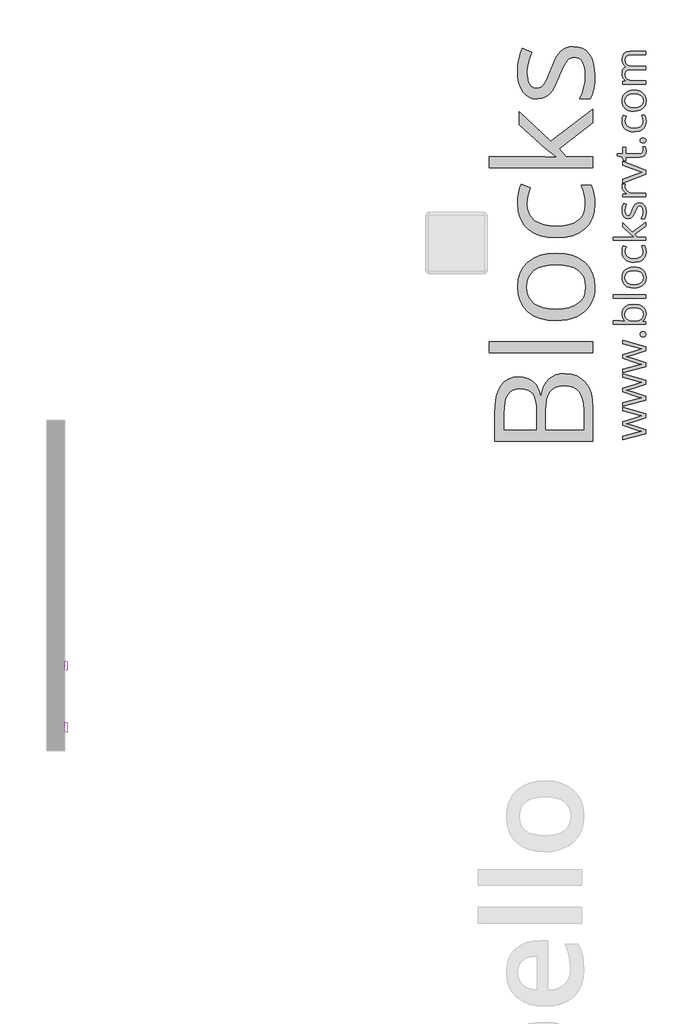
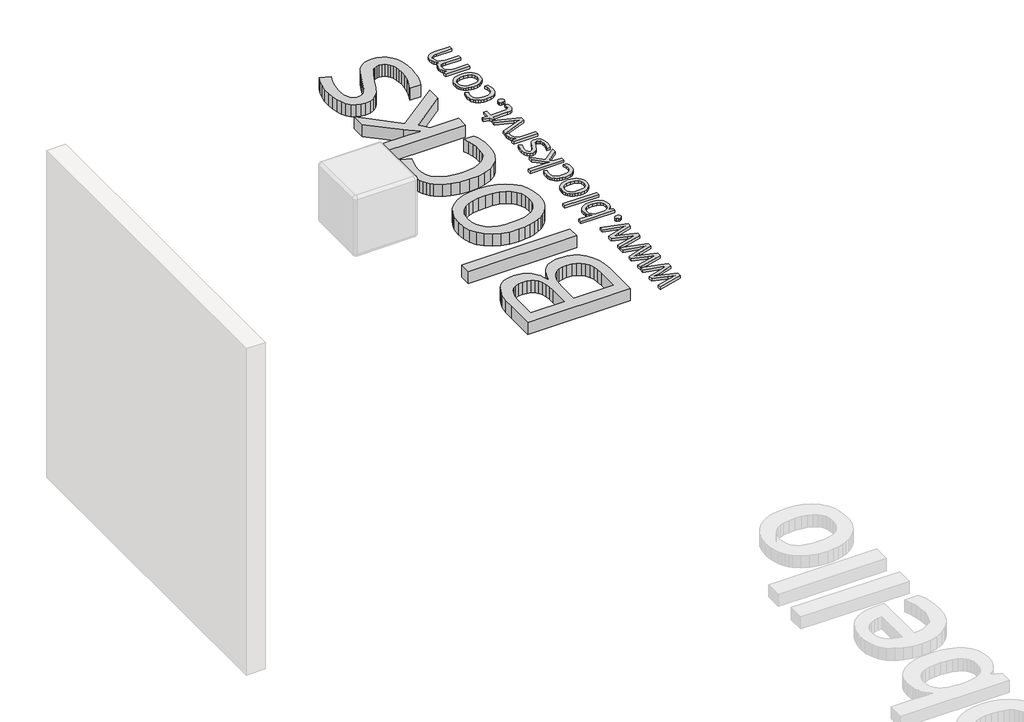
# One storey, part 3 of 3: 4 proxies.
"""IFC4 building model written with IfcOpenShell, lengths in millimetres."""

from ifc_helpers import new_model, si_unit, frame, origin, origin_with_axes, place, context, project, spatial, polyline, outline, extrude, element, save

model = new_model("IFC4")

# Units and contexts
model_context = context("Model", 3, world=origin())
ifc_project = project(units=[si_unit("LENGTHUNIT", "METRE", prefix="MILLI")], contexts=[model_context])

# Site, building, storey
site = spatial("IfcSite", under=ifc_project)
building = spatial("IfcBuilding", under=site)
storey = spatial("IfcBuildingStorey", under=building, Name="PORTOBELLO - SHOWROOM", Elevation=0.0)

# Proxies
placement = place(None, origin())
element("IfcBuildingElementProxy", 1, Name="10mm Arial", ObjectType="10mm Arial", at=placement, inside=storey, context=model_context, shape_type="SweptSolid", body=[
    extrude(outline(polyline([(-3349.3070535, 2451.5354723), (-3349.3070535, 2551.9917824), (-3314.6525695, 2551.9917824), (-3296.7244536, 2550.5447799), (-3281.9601229, 2543.3588183), (-3270.0652717, 2526.1909918), (-3266.1166716, 2502.3031876), (-3268.7899475, 2482.0328897), (-3275.6570781, 2467.403449), (-3284.8296025, 2458.2922382), (-3296.8348182, 2453.2522549), (-3312.9848378, 2451.5354723), (-3349.3070535, 2451.5354723)]), holes=[polyline([(-3336.7500147, 2464.092511), (-3314.5299422, 2464.092511), (-3298.3676599, 2465.9073955), (-3289.0479827, 2471.033218), (-3281.4082999, 2483.5044177), (-3278.6737104, 2502.4993913), (-3280.013414, 2516.1846016), (-3284.0325248, 2526.2890937), (-3297.0678102, 2537.4236554), (-3314.8732987, 2539.4347437), (-3336.7500147, 2539.4347437), (-3336.7500147, 2464.092511)])]), frame((-5514.3406146, 0.0, 0.0), z_axis=(1.0, 0.0, 0.0), x_axis=(0.0, 1.0, 0.0)), (0.0, 0.0, 1.0), 20.0),
    extrude(outline(polyline([(-3203.3314778, 2451.5354723), (-3203.3314778, 2464.2151384), (-3213.1661898, 2453.5281664), (-3225.9930087, 2449.9658424), (-3237.8020208, 2452.46744), (-3245.9444756, 2458.7459594), (-3249.6846092, 2467.9920602), (-3250.4203732, 2479.6661822), (-3250.4203732, 2525.308075), (-3237.8633344, 2525.308075), (-3237.8633344, 2485.5768196), (-3237.103045, 2472.7745261), (-3232.136638, 2465.2574707), (-3222.7801726, 2462.5228812), (-3212.2955358, 2465.3187844), (-3205.3670915, 2472.9339417), (-3203.3314778, 2486.9257202), (-3203.3314778, 2525.308075), (-3190.774439, 2525.308075), (-3190.774439, 2451.5354723), (-3203.3314778, 2451.5354723)])), frame((-5514.3406146, 0.0, 0.0), z_axis=(1.0, 0.0, 0.0), x_axis=(0.0, 1.0, 0.0)), (0.0, 0.0, 1.0), 20.0),
    extrude(outline(polyline([(-3178.2174003, 2473.5102901), (-3165.6603615, 2475.07992), (-3159.847826, 2465.7602428), (-3146.5304977, 2462.5228812), (-3133.7282043, 2465.4904626), (-3129.558875, 2472.4556951), (-3133.7527298, 2478.0965523), (-3146.6776505, 2481.6772704), (-3165.5867851, 2487.8208997), (-3173.8396045, 2494.9945986), (-3176.6477704, 2505.1236162), (-3174.3914275, 2514.4800816), (-3168.2355355, 2521.6292551), (-3160.2524962, 2525.3448632), (-3149.4490282, 2526.8777049), (-3134.1696627, 2524.4128955), (-3124.457578, 2517.7419687), (-3120.141096, 2506.4725169), (-3132.6981347, 2504.902887), (-3137.419287, 2511.8313313), (-3148.4680096, 2514.3206661), (-3160.4854881, 2511.9416959), (-3164.0907317, 2506.3989405), (-3162.5946782, 2502.744646), (-3157.9103141, 2499.9732683), (-3147.0945835, 2497.2999925), (-3128.6636955, 2491.3893551), (-3120.1043078, 2484.6939028), (-3117.0018363, 2473.7800702), (-3120.643868, 2461.7625917), (-3131.1530303, 2453.0437885), (-3146.702176, 2449.9658424), (-3159.363448, 2451.4496331), (-3168.6034175, 2455.9010053), (-3174.7715722, 2463.2709079), (-3178.2174003, 2473.5102901)])), frame((-5514.3406146, 0.0, 0.0), z_axis=(1.0, 0.0, 0.0), x_axis=(0.0, 1.0, 0.0)), (0.0, 0.0, 1.0), 20.0),
    extrude(outline(polyline([(-3076.1914603, 2462.0078464), (-3074.6218304, 2451.1675903), (-3084.015084, 2449.9658424), (-3094.5365091, 2452.0505071), (-3099.7849589, 2457.5196861), (-3101.3055378, 2471.768982), (-3101.3055378, 2512.7510363), (-3110.7233169, 2512.7510363), (-3110.7233169, 2525.308075), (-3101.3055378, 2525.308075), (-3101.3055378, 2543.2361909), (-3088.748499, 2550.6183563), (-3088.748499, 2525.308075), (-3076.1914603, 2525.308075), (-3076.1914603, 2512.7510363), (-3088.748499, 2512.7510363), (-3088.748499, 2472.136864), (-3088.0863114, 2465.6621409), (-3085.9403331, 2463.3690098), (-3081.6606393, 2462.5228812), (-3076.1914603, 2462.0078464)])), frame((-5514.3406146, 0.0, 0.0), z_axis=(1.0, 0.0, 0.0), x_axis=(0.0, 1.0, 0.0)), (0.0, 0.0, 1.0), 20.0),
])
element("IfcBuildingElementProxy", 2, Name="10mm Arial", ObjectType="10mm Arial", at=placement, inside=storey, context=model_context, shape_type="SweptSolid", body=[
    extrude(outline(polyline([(-3009.3070535, 2451.5354723), (-3009.3070535, 2551.9917824), (-2972.0773956, 2551.9917824), (-2957.0678102, 2551.0352892), (-2944.8663907, 2546.3386624), (-2936.9569278, 2536.6265778), (-2933.9648209, 2522.9291048), (-2935.9851062, 2511.0894359), (-2942.045962, 2501.2240671), (-2953.3797932, 2494.565403), (-2971.2190043, 2492.3458483), (-2996.7500147, 2492.3458483), (-2996.7500147, 2451.5354723), (-3009.3070535, 2451.5354723)]), holes=[polyline([(-2996.7500147, 2504.902887), (-2970.4832403, 2504.902887), (-2951.9910386, 2509.5136747), (-2947.8891544, 2515.0625615), (-2946.5218596, 2522.4876464), (-2949.7469585, 2532.8864441), (-2958.2205071, 2538.5763523), (-2970.7775459, 2539.4347437), (-2996.7500147, 2539.4347437), (-2996.7500147, 2504.902887)])]), frame((-5514.3406146, 0.0, 0.0), z_axis=(1.0, 0.0, 0.0), x_axis=(0.0, 1.0, 0.0)), (0.0, 0.0, 1.0), 20.0),
    extrude(outline(polyline([(-2921.4077821, 2488.4217737), (-2918.6915867, 2506.2088681), (-2910.5430005, 2518.7107246), (-2900.4752966, 2524.8359598), (-2888.4210299, 2526.8777049), (-2875.2293947, 2524.3914357), (-2864.6926412, 2516.9326283), (-2857.7856567, 2505.0898937), (-2855.4833286, 2489.4518432), (-2859.554556, 2467.1091434), (-2871.412619, 2454.4662655), (-2888.4210299, 2449.9658424), (-2901.7720806, 2452.4429145), (-2912.2965714, 2459.8741308), (-2919.1299794, 2471.9651857), (-2921.4077821, 2488.4217737)]), holes=[polyline([(-2908.8507433, 2488.4462991), (-2907.3976095, 2477.0818112), (-2903.0382078, 2468.9853416), (-2896.4776456, 2464.1384963), (-2888.4210299, 2462.5228812), (-2880.4012024, 2464.1476933), (-2873.8529029, 2469.0221298), (-2869.4935012, 2477.2258983), (-2868.0403673, 2488.8387066), (-2869.5026983, 2499.8721008), (-2873.8896911, 2507.8582057), (-2880.4471876, 2512.705051), (-2888.4210299, 2514.3206661), (-2896.4776456, 2512.7111824), (-2903.0382078, 2507.8827312), (-2907.3976095, 2499.8046557), (-2908.8507433, 2488.4462991)])]), frame((-5514.3406146, 0.0, 0.0), z_axis=(1.0, 0.0, 0.0), x_axis=(0.0, 1.0, 0.0)), (0.0, 0.0, 1.0), 20.0),
    extrude(outline(polyline([(-2841.35666, 2451.5354723), (-2841.35666, 2525.308075), (-2830.369251, 2525.308075), (-2830.369251, 2514.3942425), (-2822.5701527, 2524.4496837), (-2814.7220035, 2526.8777049), (-2802.1159138, 2523.0026812), (-2806.3097685, 2511.7454921), (-2815.1389364, 2514.3206661), (-2822.2390589, 2511.843594), (-2826.7640075, 2504.9764634), (-2828.7996212, 2490.3102346), (-2828.7996212, 2451.5354723), (-2841.35666, 2451.5354723)])), frame((-5514.3406146, 0.0, 0.0), z_axis=(1.0, 0.0, 0.0), x_axis=(0.0, 1.0, 0.0)), (0.0, 0.0, 1.0), 20.0),
    extrude(outline(polyline([(-2767.5840572, 2462.0078464), (-2766.0144273, 2451.1675903), (-2775.407681, 2449.9658424), (-2785.929106, 2452.0505071), (-2791.1775558, 2457.5196861), (-2792.6981347, 2471.768982), (-2792.6981347, 2512.7510363), (-2802.1159138, 2512.7510363), (-2802.1159138, 2523.0026812), (-2802.1159138, 2525.308075), (-2792.6981347, 2525.308075), (-2792.6981347, 2543.2361909), (-2780.141096, 2550.6183563), (-2780.141096, 2525.308075), (-2767.5840572, 2525.308075), (-2767.5840572, 2512.7510363), (-2780.141096, 2512.7510363), (-2780.141096, 2472.136864), (-2779.4789084, 2465.6621409), (-2777.3329301, 2463.3690098), (-2773.0532362, 2462.5228812), (-2767.5840572, 2462.0078464)])), frame((-5514.3406146, 0.0, 0.0), z_axis=(1.0, 0.0, 0.0), x_axis=(0.0, 1.0, 0.0)), (0.0, 0.0, 1.0), 20.0),
    extrude(outline(polyline([(-2758.1662781, 2488.4217737), (-2755.4500827, 2506.2088681), (-2747.3014965, 2518.7107246), (-2737.2337926, 2524.8359598), (-2725.1795259, 2526.8777049), (-2711.9878907, 2524.3914357), (-2701.4511372, 2516.9326283), (-2694.5441527, 2505.0898937), (-2692.2418246, 2489.4518432), (-2696.313052, 2467.1091434), (-2708.171115, 2454.4662655), (-2725.1795259, 2449.9658424), (-2738.5305766, 2452.4429145), (-2749.0550674, 2459.8741308), (-2755.8884754, 2471.9651857), (-2758.1662781, 2488.4217737)]), holes=[polyline([(-2745.6092393, 2488.4462991), (-2744.1561055, 2477.0818112), (-2739.7967038, 2468.9853416), (-2733.2361416, 2464.1384963), (-2725.1795259, 2462.5228812), (-2717.1596984, 2464.1476933), (-2710.6113989, 2469.0221298), (-2706.2519972, 2477.2258983), (-2704.7988633, 2488.8387066), (-2706.2611943, 2499.8721008), (-2710.6481871, 2507.8582057), (-2717.2056836, 2512.705051), (-2725.1795259, 2514.3206661), (-2733.2361416, 2512.7111824), (-2739.7967038, 2507.8827312), (-2744.1561055, 2499.8046557), (-2745.6092393, 2488.4462991)])]), frame((-5514.3406146, 0.0, 0.0), z_axis=(1.0, 0.0, 0.0), x_axis=(0.0, 1.0, 0.0)), (0.0, 0.0, 1.0), 20.0),
    extrude(outline(polyline([(-2665.5581172, 2451.5354723), (-2678.115156, 2451.5354723), (-2678.115156, 2551.9917824), (-2665.5581172, 2551.9917824), (-2665.5581172, 2514.737599), (-2656.7657375, 2523.8426784), (-2645.8396423, 2526.8777049), (-2633.258078, 2524.1431154), (-2623.4969424, 2516.4543817), (-2617.5004659, 2504.4982168), (-2615.3299621, 2489.5254196), (-2617.577108, 2472.7622634), (-2624.3185455, 2460.2910638), (-2634.2115055, 2452.5471478), (-2645.9132187, 2449.9658424), (-2657.0784372, 2453.2951745), (-2665.5581172, 2463.2831707), (-2665.5581172, 2451.5354723)]), holes=[polyline([(-2665.5581172, 2488.9368084), (-2662.1245519, 2471.3765745), (-2655.5455956, 2464.7363045), (-2646.9923392, 2462.5228812), (-2639.7450639, 2464.1538247), (-2633.5523836, 2469.0466552), (-2629.3033466, 2477.170716), (-2627.8870009, 2488.4953501), (-2629.2450986, 2499.985531), (-2633.3193917, 2508.0176213), (-2639.3189339, 2512.7449049), (-2646.4527789, 2514.3206661), (-2653.7000542, 2512.6897226), (-2659.8927345, 2507.7968921), (-2664.1417715, 2499.8199841), (-2665.5581172, 2488.9368084)])]), frame((-5514.3406146, 0.0, 0.0), z_axis=(1.0, 0.0, 0.0), x_axis=(0.0, 1.0, 0.0)), (0.0, 0.0, 1.0), 20.0),
    extrude(outline(polyline([(-2549.5526614, 2473.5102901), (-2537.2408773, 2471.9406603), (-2541.676921, 2462.6639026), (-2548.7555837, 2455.729327), (-2558.3174499, 2451.4067136), (-2570.203104, 2449.9658424), (-2584.936778, 2452.4521116), (-2596.2736748, 2459.910919), (-2603.502556, 2471.8578868), (-2605.912183, 2487.808637), (-2603.4780305, 2504.2958817), (-2596.1755729, 2516.62606), (-2584.9919603, 2524.3147937), (-2570.9143426, 2526.8777049), (-2557.2751176, 2524.320925), (-2546.3766135, 2516.6505854), (-2539.2305057, 2504.3449327), (-2536.8484698, 2487.8822134), (-2536.9220462, 2484.497699), (-2593.3551443, 2484.497699), (-2591.1815748, 2475.0983141), (-2586.1323944, 2468.1882639), (-2578.8452652, 2463.9392269), (-2569.9578494, 2462.5228812), (-2557.6460653, 2465.1471061), (-2549.5526614, 2473.5102901)]), holes=[polyline([(-2593.3551443, 2497.0547378), (-2549.4055086, 2497.0547378), (-2554.4332292, 2508.4345542), (-2561.7540809, 2512.8491381), (-2570.9633935, 2514.3206661), (-2586.4267, 2509.6240393), (-2591.2919394, 2504.1334005), (-2593.3551443, 2497.0547378)])]), frame((-5514.3406146, 0.0, 0.0), z_axis=(1.0, 0.0, 0.0), x_axis=(0.0, 1.0, 0.0)), (0.0, 0.0, 1.0), 20.0),
    extrude(outline(polyline([(-5494.3406146, -2511.7343923), (-5494.3406146, -2524.291431), (-5514.3406146, -2524.291431), (-5514.3406146, -2511.7343923), (-5494.3406146, -2511.7343923)])), frame((0.0, 0.0, 2451.5354723), z_axis=(0.0, 0.0, 1.0), x_axis=(1.0, 0.0, 0.0)), (0.0, 0.0, 1.0), 100.4563101),
    extrude(outline(polyline([(-5494.3406146, -2480.3417954), (-5494.3406146, -2492.8988341), (-5514.3406146, -2492.8988341), (-5514.3406146, -2480.3417954), (-5494.3406146, -2480.3417954)])), frame((0.0, 0.0, 2451.5354723), z_axis=(0.0, 0.0, 1.0), x_axis=(1.0, 0.0, 0.0)), (0.0, 0.0, 1.0), 100.4563101),
    extrude(outline(polyline([(-2464.6454969, 2488.4217737), (-2461.9293015, 2506.2088681), (-2453.7807153, 2518.7107246), (-2443.7130114, 2524.8359598), (-2431.6587447, 2526.8777049), (-2418.4671095, 2524.3914357), (-2407.930356, 2516.9326283), (-2401.0233715, 2505.0898937), (-2398.7210434, 2489.4518432), (-2402.7922708, 2467.1091434), (-2414.6503338, 2454.4662655), (-2431.6587447, 2449.9658424), (-2445.0097954, 2452.4429145), (-2455.5342861, 2459.8741308), (-2462.3676942, 2471.9651857), (-2464.6454969, 2488.4217737)]), holes=[polyline([(-2452.0884581, 2488.4462991), (-2450.6353242, 2477.0818112), (-2446.2759226, 2468.9853416), (-2439.7153604, 2464.1384963), (-2431.6587447, 2462.5228812), (-2423.6389172, 2464.1476933), (-2417.0906177, 2469.0221298), (-2412.731216, 2477.2258983), (-2411.2780821, 2488.8387066), (-2412.7404131, 2499.8721008), (-2417.1274059, 2507.8582057), (-2423.6849024, 2512.705051), (-2431.6587447, 2514.3206661), (-2439.7153604, 2512.7111824), (-2446.2759226, 2507.8827312), (-2450.6353242, 2499.8046557), (-2452.0884581, 2488.4462991)])]), frame((-5514.3406146, 0.0, 0.0), z_axis=(1.0, 0.0, 0.0), x_axis=(0.0, 1.0, 0.0)), (0.0, 0.0, 1.0), 20.0),
])
element("IfcBuildingElementProxy", 3, Name="25mm OpenSans", ObjectType="25mm OpenSans", at=placement, inside=storey, context=model_context, shape_type="SweptSolid", body=[
    extrude(outline(polyline([(-772.89024, -779.0700776), (-882.7018834, -813.5501841), (-928.4255028, -825.7681348), (-882.3270996, -839.1853936), (-772.89024, -874.7148946), (-772.89024, -907.6209092), (-959.9822959, -958.9662851), (-959.9822959, -929.1334974), (-852.6442254, -901.3994987), (-802.947898, -890.4558128), (-828.1333671, -883.0350942), (-852.6442254, -875.6893324), (-959.9822959, -841.209226), (-959.9822959, -810.3270437), (-852.5692686, -776.6714615), (-803.2477251, -763.6289865), (-822.2117836, -758.5319273), (-959.9822959, -722.777556), (-959.9822959, -693.2445953), (-772.89024, -745.264582), (-772.89024, -779.0700776)])), origin_with_axes(), (0.0, 0.0, 1.0), 20.0),
    extrude(outline(polyline([(-772.89024, -505.6278422), (-882.7018834, -540.1079486), (-928.4255028, -552.3258994), (-882.3270996, -565.7431582), (-772.89024, -601.2726592), (-772.89024, -634.1786738), (-959.9822959, -685.5240497), (-959.9822959, -655.691262), (-852.6442254, -627.9572633), (-802.947898, -617.0135774), (-828.1333671, -609.5928588), (-852.6442254, -602.247097), (-959.9822959, -567.7669906), (-959.9822959, -536.8848083), (-852.5692686, -503.2292261), (-803.2477251, -490.1867511), (-822.2117836, -485.0896918), (-959.9822959, -449.3353206), (-959.9822959, -419.8023599), (-772.89024, -471.8223465), (-772.89024, -505.6278422)])), origin_with_axes(), (0.0, 0.0, 1.0), 20.0),
    extrude(outline(polyline([(-772.89024, -232.1856068), (-882.7018834, -266.6657132), (-928.4255028, -278.883664), (-882.3270996, -292.3009228), (-772.89024, -327.8304238), (-772.89024, -360.7364384), (-959.9822959, -412.0818143), (-959.9822959, -382.2490266), (-852.6442254, -354.5150279), (-802.947898, -343.5713419), (-828.1333671, -336.1506234), (-852.6442254, -328.8048616), (-959.9822959, -294.3247551), (-959.9822959, -263.4425728), (-852.5692686, -229.7869907), (-803.2477251, -216.7445156), (-822.2117836, -211.6474564), (-959.9822959, -175.8930852), (-959.9822959, -146.3601244), (-772.89024, -198.3801111), (-772.89024, -232.1856068)])), origin_with_axes(), (0.0, 0.0, 1.0), 20.0),
    extrude(outline(polyline([(-792.0042121, -117.2019475), (-802.4138312, -115.8995739), (-809.9563545, -111.9924531), (-814.538086, -105.6492379), (-816.0653298, -97.0385809), (-814.538086, -88.1749448), (-809.9563545, -81.522533), (-802.4138312, -77.3624332), (-792.0042121, -75.9757333), (-781.8007241, -77.390542), (-774.27694, -81.6349681), (-769.6389909, -88.3154887), (-768.0930078, -97.0385809), (-773.6772859, -111.4677559), (-781.0511565, -115.7683996), (-792.0042121, -117.2019475)])), origin_with_axes(), (0.0, 0.0, 1.0), 20.0),
    extrude(outline(polyline([(-964.7795281, 71.1643731), (-963.1796699, 88.7487589), (-958.3800953, 104.2484101), (-950.3808043, 117.6633265), (-939.1817969, 128.9935082), (-925.0594761, 137.9953457), (-908.290245, 144.4252297), (-866.8110517, 149.5691369), (-825.1913145, 144.3783818), (-808.3026211, 137.8899378), (-794.0280444, 128.8061163), (-782.6814659, 117.4220594), (-774.576767, 104.0329094), (-769.7139476, 88.6386662), (-768.0930078, 71.2393299), (-769.8076436, 53.5963841), (-774.9515507, 37.5462694), (-783.6559037, 23.5387261), (-796.0518768, 12.0234949), (-796.0518768, 9.9247058), (-772.89024, 3.9281656), (-772.89024, -16.3851145), (-1036.7380111, -16.3851145), (-1036.7380111, 11.9485382), (-974.1491222, 11.9485382), (-936.3709186, 10.5993166), (-948.7996852, 23.1545728), (-957.6773757, 36.7592235), (-963.00399, 52.7624902), (-964.7795281, 71.1643731)]), holes=[polyline([(-940.7933671, 67.1916652), (-936.5583105, 41.9218698), (-923.8531408, 24.8785781), (-901.1225055, 15.1810481), (-866.8110517, 11.9485382), (-832.3590541, 15.2747441), (-809.3567004, 25.2533618), (-796.3985517, 42.5590022), (-792.0791688, 67.866276), (-796.923249, 90.9435864), (-811.4554895, 107.2560498), (-835.0574972, 116.9535797), (-867.1108787, 120.1860897), (-899.5577832, 116.9535797), (-922.5413977, 107.2560498), (-936.2303747, 90.7749337), (-940.7933671, 67.1916652)])]), origin_with_axes(), (0.0, 0.0, 1.0), 20.0),
    extrude(outline(polyline([(-772.89024, 226.8495494), (-772.89024, 198.5158967), (-1036.7380111, 198.5158967), (-1036.7380111, 226.8495494), (-772.89024, 226.8495494)])), origin_with_axes(), (0.0, 0.0, 1.0), 20.0),
    extrude(outline(polyline([(-866.5861815, 451.7947655), (-844.6589888, 450.3541904), (-825.2756409, 446.0324651), (-808.4361378, 438.8295896), (-794.1404796, 428.7455639), (-782.7447107, 416.127063), (-774.6048758, 401.3207619), (-769.7209748, 384.3266605), (-768.0930078, 365.1447589), (-771.0819084, 341.4490553), (-780.04861, 320.5829692), (-794.5995897, 303.3522856), (-814.3413245, 290.5627896), (-838.571095, 282.6361129), (-866.5861815, 279.9938874), (-888.5040045, 281.4227505), (-907.8592436, 285.7093398), (-924.6518987, 292.8536553), (-938.8819698, 302.8556971), (-950.2121516, 315.3968988), (-958.3051385, 330.1586944), (-963.1609307, 347.1410838), (-964.7795281, 366.344067), (-963.1234523, 384.9403689), (-958.155225, 401.526893), (-949.8748462, 416.1036391), (-938.2823158, 428.6706072), (-923.8648528, 438.7874265), (-907.1096761, 446.013726), (-888.0167857, 450.3495056), (-866.5861815, 451.7947655)]), holes=[polyline([(-866.8110517, 309.4518913), (-834.6546046, 313.0310763), (-811.1931409, 323.7686312), (-796.8576619, 341.4396857), (-792.0791688, 365.8193697), (-796.8389227, 390.2177928), (-811.1181841, 407.945065), (-834.5609087, 418.7388374), (-866.8110517, 422.3367616), (-898.733259, 418.7388374), (-921.9417436, 407.945065), (-936.0804612, 390.1240969), (-940.7933671, 365.4445859), (-936.1460484, 341.1117499), (-922.2040923, 323.5812393), (-899.0611947, 312.9842283), (-866.8110517, 309.4518913)])]), origin_with_axes(), (0.0, 0.0, 1.0), 20.0),
    extrude(outline(polyline([(-768.0930078, 577.1974135), (-769.6788116, 557.8538864), (-774.4362231, 540.8246491), (-782.3652421, 526.1097015), (-793.4658688, 513.7090436), (-807.4663848, 503.8709698), (-824.095072, 496.8437742), (-865.2369599, 491.2220177), (-887.6841651, 492.6485384), (-907.4282423, 496.9281005), (-924.4691917, 504.0607041), (-938.8070131, 514.046349), (-950.1699884, 526.6695347), (-958.2863993, 541.7147605), (-963.1562459, 559.1820264), (-964.7795281, 579.0713324), (-962.0061282, 606.3181121), (-955.4848907, 627.6433084), (-932.0234269, 618.8733683), (-938.2823158, 598.147826), (-940.7933671, 578.3217648), (-936.1038852, 553.1035022), (-922.0354396, 535.0904575), (-898.5880302, 524.2826306), (-865.7616572, 520.6800217), (-834.29856, 524.1936195), (-811.1181841, 534.7344129), (-796.8389227, 552.1712276), (-792.0791688, 576.3728892), (-794.6089593, 600.3403111), (-802.1983305, 624.8699085), (-777.5375587, 624.8699085), (-770.4541456, 603.4697555), (-768.0930078, 577.1974135)])), origin_with_axes(), (0.0, 0.0, 1.0), 20.0),
    extrude(outline(polyline([(-866.736095, 696.4536078), (-894.6200071, 719.3154175), (-959.9822959, 779.28082), (-959.9822959, 812.6365751), (-880.2283105, 737.379995), (-772.89024, 817.8835478), (-772.89024, 783.7782252), (-859.2404196, 718.1910662), (-841.2507989, 697.2031753), (-772.89024, 697.2031753), (-772.89024, 669.1693496), (-1036.7380111, 669.1693496), (-1036.7380111, 697.2031753), (-895.7443584, 697.2031753), (-866.736095, 696.4536078)])), origin_with_axes(), (0.0, 0.0, 1.0), 20.0),
    extrude(outline(polyline([(-823.3361349, 978.141086), (-799.8465624, 973.2407883), (-782.4472261, 958.5398951), (-771.6815624, 934.994105), (-768.0930078, 903.5591167), (-771.0537996, 870.2595791), (-779.9361748, 845.167806), (-806.4708654, 845.167806), (-795.9394416, 874.3259829), (-792.0791688, 904.3086842), (-793.8593917, 924.1253758), (-799.2000604, 938.7513123), (-808.1948708, 947.7742314), (-820.9375188, 950.7818711), (-831.2253332, 948.3926246), (-839.9015773, 941.2248851), (-858.4908521, 904.0088572), (-875.7309053, 866.6054374), (-892.4087829, 850.0774733), (-914.7833737, 844.6431087), (-935.508916, 849.3279058), (-951.3622692, 863.382297), (-961.4252134, 885.6069743), (-964.7795281, 914.8026296), (-961.6688228, 944.8415484), (-952.336707, 974.2433349), (-929.1750703, 964.0492164), (-937.8887929, 936.9898286), (-940.7933671, 912.6288838), (-939.1911665, 894.8079157), (-934.3845647, 881.9715718), (-926.7483454, 874.2135478), (-916.6572925, 871.6275398), (-903.6522959, 875.4878126), (-893.4581775, 887.968112), (-879.4037862, 921.0240401), (-867.0734003, 949.1047138), (-854.6680577, 966.3353974), (-840.6136665, 975.1896639), (-823.3361349, 978.141086)])), origin_with_axes(), (0.0, 0.0, 1.0), 20.0),
    extrude(outline(polyline([(-964.7795281, 1110.5896688), (-962.9056092, 1133.2266083), (-938.2448374, 1129.2539003), (-940.7933671, 1108.5658365), (-936.0992004, 1087.2312706), (-922.0167004, 1069.2510195), (-900.925744, 1057.0236991), (-875.2062081, 1052.9479256), (-772.89024, 1052.9479256), (-772.89024, 1024.614273), (-959.9822959, 1024.614273), (-959.9822959, 1048.0007799), (-926.4016705, 1051.2239203), (-942.7235034, 1064.2101778), (-954.8102799, 1077.9834812), (-962.287216, 1093.5557467), (-964.7795281, 1110.5896688)])), origin_with_axes(), (0.0, 0.0, 1.0), 20.0),
    extrude(outline(polyline([(-772.89024, 1210.2071937), (-959.9822959, 1138.2487107), (-959.9822959, 1169.0559362), (-849.0463012, 1209.9073667), (-798.5254496, 1226.0980254), (-836.0038262, 1239.5152842), (-959.9822959, 1284.9390766), (-959.9822959, 1315.7463021), (-772.89024, 1243.7878191), (-772.89024, 1210.2071937)])), origin_with_axes(), (0.0, 0.0, 1.0), 20.0),
    extrude(outline(polyline([(-792.0791688, 1407.1185842), (-793.2035201, 1421.8101078), (-795.5271795, 1433.0536208), (-773.3399806, 1433.0536208), (-769.5921429, 1419.336535), (-768.0930078, 1403.0709195), (-771.6534536, 1379.0660193), (-782.3347909, 1361.9196621), (-800.1370198, 1351.6318477), (-825.0601402, 1348.2025762), (-935.9961349, 1348.2025762), (-935.9961349, 1321.0682316), (-950.0130477, 1321.0682316), (-962.1560417, 1348.0526627), (-1003.1573857, 1360.1207), (-1003.1573857, 1376.6111857), (-959.9822959, 1376.6111857), (-959.9822959, 1431.7043992), (-935.9961349, 1431.7043992), (-935.9961349, 1376.6111857), (-826.7841455, 1376.6111857), (-811.952078, 1378.6443876), (-801.0365008, 1384.7439934), (-794.3185018, 1394.4040449), (-792.0791688, 1407.1185842)])), origin_with_axes(), (0.0, 0.0, 1.0), 20.0),
    extrude(outline(polyline([(-792.0042121, 1465.8846786), (-802.4138312, 1467.1870522), (-809.9563545, 1471.094173), (-814.538086, 1477.4373882), (-816.0653298, 1486.0480452), (-814.538086, 1494.9116813), (-809.9563545, 1501.5640931), (-802.4138312, 1505.7241929), (-792.0042121, 1507.1108929), (-781.8007241, 1505.6960842), (-774.27694, 1501.451658), (-769.6389909, 1494.7711374), (-768.0930078, 1486.0480452), (-773.6772859, 1471.6188703), (-781.0511565, 1467.3182266), (-792.0042121, 1465.8846786)])), origin_with_axes(), (0.0, 0.0, 1.0), 20.0),
    extrude(outline(polyline([(-768.0930078, 1642.182962), (-769.6788116, 1622.8394349), (-774.4362231, 1605.8101976), (-782.3652421, 1591.09525), (-793.4658688, 1578.6945921), (-807.4663848, 1568.8565183), (-824.095072, 1561.8293227), (-865.2369599, 1556.2075662), (-887.6841651, 1557.6340869), (-907.4282423, 1561.913649), (-924.4691917, 1569.0462525), (-938.8070131, 1579.0318975), (-950.1699884, 1591.6550832), (-958.2863993, 1606.700309), (-963.1562459, 1624.1675749), (-964.7795281, 1644.0568808), (-962.0061282, 1671.3036606), (-955.4848907, 1692.6288569), (-932.0234269, 1683.8589168), (-938.2823158, 1663.1333745), (-940.7933671, 1643.3073133), (-936.1038852, 1618.0890507), (-922.0354396, 1600.0760059), (-898.5880302, 1589.2681791), (-865.7616572, 1585.6655702), (-834.29856, 1589.179168), (-811.1181841, 1599.7199614), (-796.8389227, 1617.1567761), (-792.0791688, 1641.3584377), (-794.6089593, 1665.3258595), (-802.1983305, 1689.855457), (-777.5375587, 1689.855457), (-770.4541456, 1668.455304), (-768.0930078, 1642.182962)])), origin_with_axes(), (0.0, 0.0, 1.0), 20.0),
    extrude(outline(polyline([(-866.5861815, 1895.7616579), (-844.6589888, 1894.3210828), (-825.2756409, 1889.9993575), (-808.4361378, 1882.796482), (-794.1404796, 1872.7124563), (-782.7447107, 1860.0939554), (-774.6048758, 1845.2876542), (-769.7209748, 1828.2935528), (-768.0930078, 1809.1116512), (-771.0819084, 1785.4159477), (-780.04861, 1764.5498615), (-794.5995897, 1747.3191779), (-814.3413245, 1734.5296819), (-838.571095, 1726.6030052), (-866.5861815, 1723.9607797), (-888.5040045, 1725.3896428), (-907.8592436, 1729.6762321), (-924.6518987, 1736.8205476), (-938.8819698, 1746.8225894), (-950.2121516, 1759.3637911), (-958.3051385, 1774.1255867), (-963.1609307, 1791.1079761), (-964.7795281, 1810.3109593), (-963.1234523, 1828.9072613), (-958.155225, 1845.4937853), (-949.8748462, 1860.0705314), (-938.2823158, 1872.6374995), (-923.8648528, 1882.7543188), (-907.1096761, 1889.9806183), (-888.0167857, 1894.316398), (-866.5861815, 1895.7616579)]), holes=[polyline([(-866.8110517, 1753.4187837), (-834.6546046, 1756.9979686), (-811.1931409, 1767.7355235), (-796.8576619, 1785.4065781), (-792.0791688, 1809.786262), (-796.8389227, 1834.1846852), (-811.1181841, 1851.9119573), (-834.5609087, 1862.7057297), (-866.8110517, 1866.3036539), (-898.733259, 1862.7057297), (-921.9417436, 1851.9119573), (-936.0804612, 1834.0909892), (-940.7933671, 1809.4114782), (-936.1460484, 1785.0786423), (-922.2040923, 1767.5481316), (-899.0611947, 1756.9511207), (-866.8110517, 1753.4187837)])]), origin_with_axes(), (0.0, 0.0, 1.0), 20.0),
    extrude(outline(polyline([(-772.89024, 2184.7948979), (-895.6694017, 2184.7948979), (-915.4111365, 2182.3962818), (-929.5123757, 2175.2004335), (-937.9731192, 2162.9450044), (-940.7933671, 2145.3676458), (-936.961203, 2122.299705), (-925.464711, 2106.1652639), (-906.004064, 2096.6644954), (-878.2794349, 2093.4975726), (-772.89024, 2093.4975726), (-772.89024, 2065.0889632), (-895.6694017, 2065.0889632), (-915.4111365, 2062.6903471), (-929.5123757, 2055.4944988), (-937.9731192, 2043.2015913), (-940.7933671, 2025.5117975), (-936.7644416, 2002.3314216), (-924.6776651, 1986.3094156), (-903.4274256, 1976.9772999), (-871.9081109, 1973.8665946), (-772.89024, 1973.8665946), (-772.89024, 1945.5329419), (-959.9822959, 1945.5329419), (-959.9822959, 1968.6196219), (-935.9961349, 1973.1919838), (-948.0735417, 1984.2762137), (-957.1714176, 1997.29058), (-962.8775004, 2012.8159975), (-964.7795281, 2030.0841595), (-962.8119133, 2050.1819389), (-956.909069, 2066.4756631), (-947.0709951, 2078.9653321), (-933.2976917, 2087.6509459), (-946.3214276, 2099.2786122), (-956.309415, 2113.3236338), (-962.6619998, 2130.3669256), (-964.7795281, 2149.6401807), (-960.6756458, 2177.4959841), (-948.3639991, 2197.3501541), (-927.0200637, 2209.240169), (-895.8193152, 2213.2035074), (-772.89024, 2213.2035074), (-772.89024, 2184.7948979)])), origin_with_axes(), (0.0, 0.0, 1.0), 20.0),
])
element("IfcBuildingElementProxy", 4, Name="80mm OpenSans", ObjectType="80mm OpenSans", at=placement, inside=storey, context=model_context, shape_type="SweptSolid", body=[
    extrude(outline(polyline([(-2002.273647, -969.9242317), (-2002.273647, -744.9411111), (-1999.3366679, -671.1110132), (-1990.5257303, -608.2626635), (-1975.8408345, -556.396062), (-1955.2819803, -515.5112088), (-1928.3834575, -484.541477), (-1894.6795558, -462.42024), (-1854.1702753, -449.1474978), (-1806.855616, -444.7232504), (-1773.1967831, -447.1945193), (-1742.6476928, -454.6083261), (-1715.2083452, -466.9646707), (-1690.8787403, -484.2635531), (-1670.0945424, -506.2946526), (-1653.291416, -532.8476485), (-1640.4693612, -563.9225406), (-1631.6283779, -599.5193291), (-1626.3403131, -599.5193291), (-1616.4251916, -556.9857113), (-1602.4238382, -520.1232426), (-1584.3362529, -488.9319228), (-1562.1624357, -463.4117522), (-1535.9023866, -443.5627305), (-1505.5561057, -429.3848579), (-1471.1235928, -420.8781344), (-1432.6048481, -418.0425598), (-1381.3692089, -422.5569447), (-1336.0676197, -436.1000993), (-1296.7000804, -458.6720236), (-1263.2665912, -490.2727177), (-1236.608435, -529.970761), (-1217.5668948, -576.834733), (-1206.1419707, -630.8646337), (-1202.3336627, -692.0604631), (-1202.3336627, -969.9242317), (-2002.273647, -969.9242317)]), holes=[polyline([(-1663.8374998, -876.9023646), (-1663.8374998, -724.9906848), (-1665.7679439, -679.5088207), (-1671.5592763, -640.892427), (-1681.2114968, -609.1415038), (-1694.7246056, -584.2560512), (-1712.8046794, -565.4849234), (-1736.1577951, -552.076975), (-1764.7839527, -544.032206), (-1798.6831522, -541.3506163), (-1829.8857391, -544.3401757), (-1856.4312235, -553.3088538), (-1878.3196054, -568.2566506), (-1895.5508847, -589.1835661), (-1908.5907718, -616.6154023), (-1917.9049768, -651.0779609), (-1923.4934998, -692.5712421), (-1925.3563408, -741.0952458), (-1925.3563408, -876.9023646), (-1663.8374998, -876.9023646)]), polyline([(-1586.9201936, -876.9023646), (-1279.2509689, -876.9023646), (-1279.2509689, -711.2897897), (-1281.6621462, -666.1834983), (-1288.895678, -627.0112569), (-1300.9515644, -593.7730655), (-1317.8298053, -566.4689241), (-1339.830859, -545.1739473), (-1367.2551837, -529.9632495), (-1400.1027794, -520.8368308), (-1438.3736461, -517.7946913), (-1474.0680835, -520.9044339), (-1504.7148226, -530.2336619), (-1530.3138636, -545.7823752), (-1550.8652064, -567.5505737), (-1566.6392633, -595.6584409), (-1577.9064468, -630.2261599), (-1584.6667569, -671.2537309), (-1586.9201936, -718.7411537), (-1586.9201936, -876.9023646)])]), origin_with_axes(), (0.0, 0.0, 1.0), 100.0),
    extrude(outline(polyline([(-1202.3336627, -156.2833522), (-1202.3336627, -247.1419202), (-2048.4240307, -247.1419202), (-2048.4240307, -156.2833522), (-1202.3336627, -156.2833522)])), origin_with_axes(), (0.0, 0.0, 1.0), 100.0),
    extrude(outline(polyline([(-1502.79189, 565.0567598), (-1432.4771534, 560.4372146), (-1370.3198576, 546.5785789), (-1316.3200027, 523.4808526), (-1270.4775887, 491.1440359), (-1233.9343568, 450.6798242), (-1207.8320483, 403.1999128), (-1192.1706632, 348.7043018), (-1186.9502015, 287.1929913), (-1189.3463558, 248.0658186), (-1196.5348189, 211.2071056), (-1208.5155907, 176.6168522), (-1225.2886713, 144.2950584), (-1246.5385794, 114.8877094), (-1271.949834, 89.0407904), (-1301.522435, 66.7543013), (-1335.2563825, 48.0282423), (-1372.5883172, 33.2006288), (-1412.95488, 22.6094763), (-1456.356071, 16.2547848), (-1502.79189, 14.1365543), (-1573.0765808, 18.7185423), (-1635.1437391, 32.4645062), (-1688.9933649, 55.374446), (-1734.6254582, 87.4483618), (-1770.9583693, 127.6646955), (-1796.9104487, 175.0018892), (-1812.4816963, 229.4599429), (-1817.6721122, 291.0388566), (-1812.361513, 350.6723032), (-1796.4297155, 403.8609209), (-1769.8767197, 450.6047096), (-1732.7025255, 490.9036694), (-1686.4695158, 523.3456464), (-1632.7400733, 546.5184872), (-1571.514198, 560.4221917), (-1502.79189, 565.0567598)]), holes=[polyline([(-1503.5129897, 108.600621), (-1448.4690425, 111.469997), (-1400.3957261, 120.0781252), (-1359.2930406, 134.4250056), (-1325.160986, 154.5106381), (-1298.3450892, 180.1547478), (-1279.1908772, 211.1770597), (-1267.6983501, 247.577574), (-1263.8675077, 289.3562905), (-1267.6833271, 331.1500299), (-1279.1307856, 367.5956129), (-1298.209883, 398.6930394), (-1324.9206194, 424.4423095), (-1358.9775595, 444.6331024), (-1400.0952679, 459.0550973), (-1448.2737447, 467.7082942), (-1503.5129897, 470.5926932), (-1558.1888756, 467.7082942), (-1605.8791078, 459.0550973), (-1646.5836861, 444.6331024), (-1680.3026107, 424.4423095), (-1706.7504461, 398.6179248), (-1725.6417572, 367.2951546), (-1736.9765438, 330.4739989), (-1740.754806, 288.1544576), (-1737.029124, 246.4132984), (-1725.8520779, 210.125456), (-1707.2236678, 179.2909304), (-1681.1438937, 153.9097216), (-1647.6878701, 134.0869901), (-1606.9307116, 119.9278961), (-1558.8724181, 111.4324397), (-1503.5129897, 108.600621)])]), origin_with_axes(), (0.0, 0.0, 1.0), 100.0),
    extrude(outline(polyline([(-1186.9502015, 967.1900513), (-1192.035457, 905.1604502), (-1207.2912235, 850.5521674), (-1232.7175009, 803.3652028), (-1268.3142894, 763.5995564), (-1313.21026, 732.0514426), (-1366.5340839, 709.5170755), (-1428.2857611, 695.9964553), (-1498.4652915, 691.4895819), (-1570.4475713, 696.0640584), (-1633.7616313, 709.7874879), (-1688.4074714, 732.6598705), (-1734.3850916, 764.6812061), (-1753.905487, 783.9499677), (-1770.8231631, 805.1604407), (-1785.1381198, 828.312625), (-1796.850357, 853.4065206), (-1812.4666734, 909.4194456), (-1817.6721122, 973.1992158), (-1815.4487213, 1016.9158879), (-1808.7785487, 1060.5724683), (-1799.1037937, 1099.4818087), (-1787.866656, 1128.9567608), (-1712.6319159, 1100.8338707), (-1732.7025255, 1034.3725109), (-1738.7417359, 1000.5108687), (-1740.754806, 970.79555), (-1736.9953224, 927.4732293), (-1725.7168717, 889.9272181), (-1706.9194539, 858.1575163), (-1680.6030689, 832.1641239), (-1646.7677168, 811.9470409), (-1605.4133975, 797.5062674), (-1556.5401111, 788.8418033), (-1500.1478576, 785.9536486), (-1446.3808578, 788.7704444), (-1399.2539849, 797.2208321), (-1358.7672387, 811.3048115), (-1324.9206194, 831.0223826), (-1298.209883, 856.2683852), (-1279.1307856, 886.9376587), (-1267.6833271, 923.0302033), (-1263.8675077, 964.5460189), (-1265.8956007, 1002.7492824), (-1271.9798798, 1041.4032334), (-1282.120345, 1080.5078717), (-1296.3169962, 1120.0631973), (-1217.2363908, 1120.0631973), (-1203.986183, 1087.7038462), (-1194.5217488, 1051.4385382), (-1188.8430883, 1011.2672732), (-1186.9502015, 967.1900513)])), origin_with_axes(), (0.0, 0.0, 1.0), 100.0),
    extrude(outline(polyline([(-1503.2726232, 1351.7765822), (-1592.6889916, 1422.9250904), (-1802.288651, 1615.2183559), (-1802.288651, 1722.1814848), (-1546.5386079, 1480.8534366), (-1202.3336627, 1739.0071455), (-1202.3336627, 1629.6403508), (-1479.235965, 1419.3195917), (-1421.5479853, 1352.0169488), (-1202.3336627, 1352.0169488), (-1202.3336627, 1262.1198472), (-2048.4240307, 1262.1198472), (-2048.4240307, 1352.0169488), (-1596.2944903, 1352.0169488), (-1503.2726232, 1347.4499837), (-1503.2726232, 1351.7765822)])), origin_with_axes(), (0.0, 0.0, 1.0), 100.0),
    extrude(outline(polyline([(-1364.1003723, 2252.9108975), (-1323.9967104, 2248.9824061), (-1288.7754947, 2237.1969322), (-1258.4367252, 2217.5544756), (-1232.9804019, 2190.0550363), (-1212.8421892, 2155.4647829), (-1198.4577516, 2114.5498838), (-1189.827089, 2067.310339), (-1186.9502015, 2013.7461485), (-1189.3238215, 1957.064704), (-1196.4446814, 1906.9632946), (-1208.3127814, 1863.4419203), (-1224.9281214, 1826.5005813), (-1310.0178914, 1826.5005813), (-1290.8787023, 1871.629407), (-1276.2463866, 1920.0031816), (-1266.9622274, 1969.0379643), (-1263.8675077, 2016.1498144), (-1265.2946842, 2050.0039451), (-1269.576214, 2079.6967294), (-1276.7120969, 2105.2281673), (-1286.7023329, 2126.5982587), (-1299.6220367, 2143.4764996), (-1315.5463227, 2155.532386), (-1334.4751911, 2162.7659178), (-1356.4086417, 2165.1770951), (-1373.5497835, 2163.2616739), (-1389.398955, 2157.5154103), (-1403.9561561, 2147.9383043), (-1417.2213869, 2134.5303559), (-1444.7433605, 2089.3714843), (-1476.8322992, 2015.188348), (-1506.517572, 1943.0182818), (-1532.116613, 1895.2454237), (-1557.2649666, 1864.2080888), (-1585.5981774, 1842.2445924), (-1618.4983533, 1829.1746595), (-1657.3476021, 1824.8180152), (-1692.5312605, 1828.5737431), (-1723.808962, 1839.8409266), (-1751.1807065, 1858.6195658), (-1774.646494, 1884.9096607), (-1793.470202, 1917.7497449), (-1806.9157077, 1956.1783522), (-1814.9830111, 2000.1954825), (-1817.6721122, 2049.8011358), (-1815.1783089, 2098.2199791), (-1807.696899, 2146.1280435), (-1795.2278826, 2193.5253288), (-1777.7712596, 2240.4118352), (-1703.4979858, 2207.7219801), (-1719.7978447, 2163.2541624), (-1731.440601, 2120.949644), (-1738.4262547, 2080.8084249), (-1740.754806, 2042.8305049), (-1735.6169703, 1985.6833501), (-1729.1946757, 1963.1039143), (-1720.2034633, 1944.520573), (-1708.9437912, 1930.0084406), (-1695.7161177, 1919.6426318), (-1680.5204429, 1913.4231464), (-1663.3567667, 1911.3499847), (-1640.6721705, 1914.4447044), (-1621.6531647, 1923.7288636), (-1604.8875956, 1939.9235621), (-1588.9633096, 1963.7498995), (-1569.9443038, 2004.0713936), (-1543.8945755, 2069.7515621), (-1524.15447, 2119.1243603), (-1504.3542728, 2159.7988928), (-1484.4939839, 2191.7751597), (-1464.5736035, 2215.0531608), (-1443.3312068, 2231.6159206), (-1419.5048694, 2243.4464633), (-1393.0945912, 2250.5447889), (-1364.1003723, 2252.9108975)])), origin_with_axes(), (0.0, 0.0, 1.0), 100.0),
])

save(model, "model.ifc")
